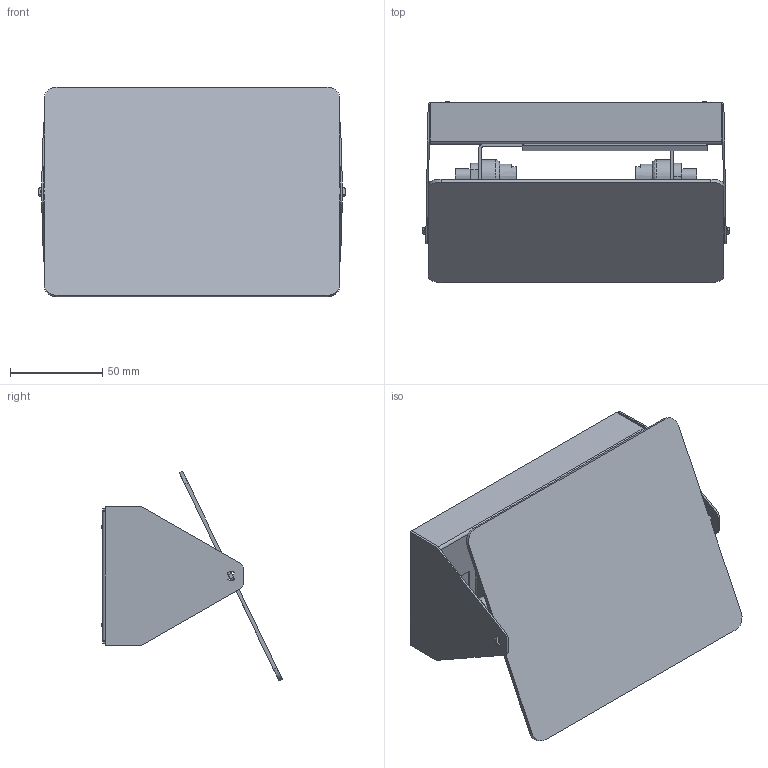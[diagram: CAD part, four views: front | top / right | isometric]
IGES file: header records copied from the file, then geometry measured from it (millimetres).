
Start section: SolidWorks IGES file using analytic representation for surfaces
Global section: file name: C:\Users\V\Documents\NEMO new\SILHOUETTE_3D\CATALOGO_3D\Applique a volet pivotant\Nemo_applique a volet Pivotant R7s.IGS; native system: SolidWorks 2012; preprocessor: SolidWorks 2012; author: V; date: 121112.110627; units: millimetre
Bounding box: 166 x 97.83 x 113.6 mm (x, y, z)
Surface area: 142050.2 mm2 (no closed solid volume)
Topology: 0 solids, 0 shells, 291 faces, 1432 edges, 1348 vertices
Faces by surface type: bspline 165, revolution 126
